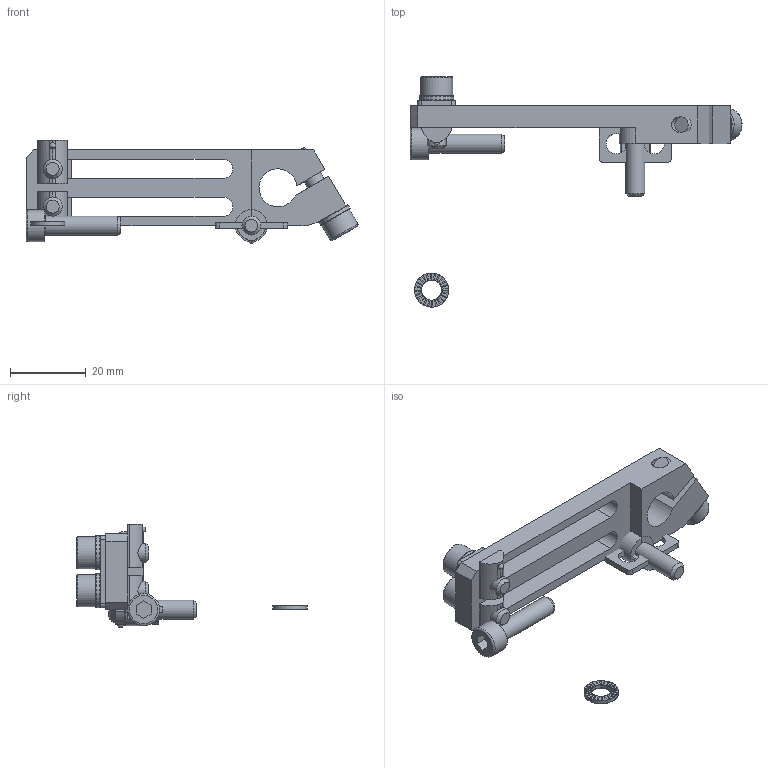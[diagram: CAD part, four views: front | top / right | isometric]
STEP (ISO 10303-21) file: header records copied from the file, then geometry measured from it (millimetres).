
FILE_DESCRIPTION( ( 'STEP AP214' ), '1' );
FILE_NAME( 'C:/Users/Segreteria/Desktop/CA.04.02.004.5.stp', '2015-04-10T07:25:45', ( ' ' ), ( ' ' ), 'XStep 1.0', ' ', ' ' );
FILE_SCHEMA( ( 'CONFIG_CONTROL_DESIGN) ( )' ) );
Length unit declared in the file: metre
Products named in the file (8): Assem1; Assem2; R.5.SCH; V-tcei M  5 x 20; 04-02-004; V-tcei M 5 x 14; R.05.10; CA.02.05.003
Bounding box: 87.66 x 60.74 x 27.23 mm (x, y, z)
Volume: 24875.6 mm3; surface area: 21786.1 mm2
Topology: 14 solids, 19 shells, 1198 faces, 3470 edges, 2304 vertices
Faces by surface type: plane 1095, cylinder 85, torus 9, cone 6, bspline 3
Full cylindrical faces by diameter (mm): 4.134 x3, 5 x9, 5.2 x3, 5.3 x9, 8.5 x6, 9 x5
Entity records: 9333 total; most frequent: CARTESIAN_POINT 1682, DIRECTION 1565, ORIENTED_EDGE 1514, EDGE_CURVE 757, AXIS2_PLACEMENT_3D 531, VERTEX_POINT 512, LINE 503, VECTOR 503
